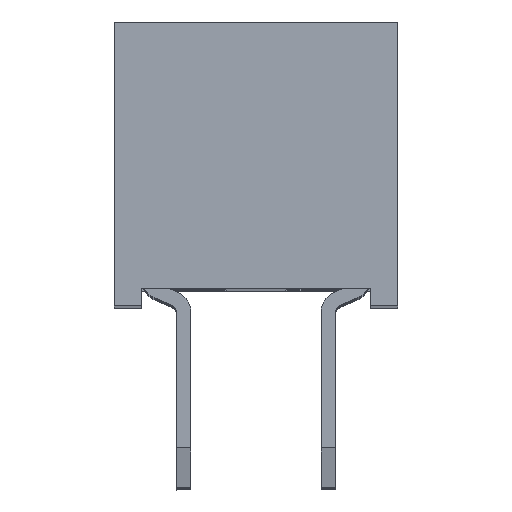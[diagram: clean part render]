
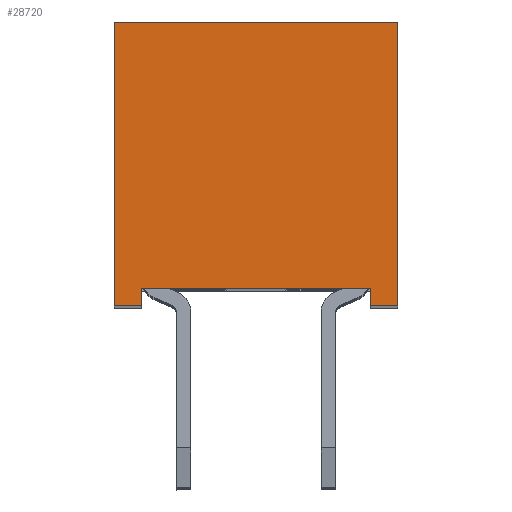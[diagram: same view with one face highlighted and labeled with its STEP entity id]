
A CAD part, top view. The second image highlights one B-rep face of the part: STEP entity #28720.
In plain terms, the highlighted planar face has unit normal (0, 0, 1).
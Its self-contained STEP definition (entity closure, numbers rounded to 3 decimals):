
#701 = PLANE ( 'NONE',  #1032 ) ;
#715 = FACE_OUTER_BOUND ( 'NONE', #5439, .T. ) ;
#724 = CARTESIAN_POINT ( 'NONE',  ( -0.473, 20.754, 50.799 ) ) ;
#725 = DIRECTION ( 'NONE',  ( 0., 0., -1. ) ) ;
#726 = DIRECTION ( 'NONE',  ( -1., 0., 0. ) ) ;
#1032 = AXIS2_PLACEMENT_3D ( 'NONE', #724, #725, #726 ) ;
#5439 = EDGE_LOOP ( 'NONE', ( #22536, #22646, #22626, #22691, #22578, #22547, #22705, #22599 ) ) ;
#7926 = CARTESIAN_POINT ( 'NONE',  ( 4.527, 20.754, 50.799 ) ) ;
#8078 = CARTESIAN_POINT ( 'NONE',  ( -0.473, 25.754, 50.799 ) ) ;
#8137 = CARTESIAN_POINT ( 'NONE',  ( 4.527, 25.754, 50.799 ) ) ;
#8440 = CARTESIAN_POINT ( 'NONE',  ( -0.473, 20.754, 50.799 ) ) ;
#8613 = CARTESIAN_POINT ( 'NONE',  ( 0.007, 20.754, 50.799 ) ) ;
#8779 = CARTESIAN_POINT ( 'NONE',  ( 4.047, 20.754, 50.799 ) ) ;
#15125 = CARTESIAN_POINT ( 'NONE',  ( 4.047, 21.054, 50.799 ) ) ;
#15863 = VERTEX_POINT ( 'NONE', #8613 ) ;
#22536 = ORIENTED_EDGE ( 'NONE', *, *, #28290, .F. ) ;
#22547 = ORIENTED_EDGE ( 'NONE', *, *, #28285, .F. ) ;
#22578 = ORIENTED_EDGE ( 'NONE', *, *, #28228, .F. ) ;
#22599 = ORIENTED_EDGE ( 'NONE', *, *, #28375, .F. ) ;
#22626 = ORIENTED_EDGE ( 'NONE', *, *, #28263, .F. ) ;
#22646 = ORIENTED_EDGE ( 'NONE', *, *, #28251, .F. ) ;
#22691 = ORIENTED_EDGE ( 'NONE', *, *, #25730, .F. ) ;
#22705 = ORIENTED_EDGE ( 'NONE', *, *, #28299, .F. ) ;
#23067 = VERTEX_POINT ( 'NONE', #8137 ) ;
#23083 = VERTEX_POINT ( 'NONE', #8078 ) ;
#23141 = VERTEX_POINT ( 'NONE', #7926 ) ;
#23276 = VERTEX_POINT ( 'NONE', #8440 ) ;
#23368 = VERTEX_POINT ( 'NONE', #8779 ) ;
#23483 = VERTEX_POINT ( 'NONE', #15125 ) ;
#24039 = VERTEX_POINT ( 'NONE', #28814 ) ;
#24735 = VECTOR ( 'NONE', #29835, 1000. ) ;
#24745 = VECTOR ( 'NONE', #29875, 1000. ) ;
#24747 = VECTOR ( 'NONE', #29901, 1000. ) ;
#24762 = VECTOR ( 'NONE', #29952, 1000. ) ;
#24765 = VECTOR ( 'NONE', #29957, 1000. ) ;
#24769 = VECTOR ( 'NONE', #29976, 1000. ) ;
#25730 = EDGE_CURVE ( 'NONE', #23368, #23483, #27939, .T. ) ;
#27933 = DIRECTION ( 'NONE',  ( 0., 1., 0. ) ) ;
#27935 = CARTESIAN_POINT ( 'NONE',  ( 4.047, 25.354, 50.799 ) ) ;
#27939 = LINE ( 'NONE', #27935, #29759 ) ;
#28228 = EDGE_CURVE ( 'NONE', #23141, #23368, #29832, .T. ) ;
#28251 = EDGE_CURVE ( 'NONE', #24039, #15863, #29872, .T. ) ;
#28263 = EDGE_CURVE ( 'NONE', #23483, #24039, #29802, .T. ) ;
#28285 = EDGE_CURVE ( 'NONE', #23067, #23141, #29908, .T. ) ;
#28290 = EDGE_CURVE ( 'NONE', #15863, #23276, #29955, .T. ) ;
#28299 = EDGE_CURVE ( 'NONE', #23083, #23067, #29973, .T. ) ;
#28375 = EDGE_CURVE ( 'NONE', #23276, #23083, #30289, .T. ) ;
#28720 = ADVANCED_FACE ( 'NONE', ( #715 ), #701, .F. ) ;
#28814 = CARTESIAN_POINT ( 'NONE',  ( 0.007, 21.054, 50.799 ) ) ;
#29759 = VECTOR ( 'NONE', #27933, 1000. ) ;
#29802 = LINE ( 'NONE', #29897, #24747 ) ;
#29832 = LINE ( 'NONE', #29834, #24735 ) ;
#29834 = CARTESIAN_POINT ( 'NONE',  ( 4.047, 20.754, 50.799 ) ) ;
#29835 = DIRECTION ( 'NONE',  ( -1., 0., 0. ) ) ;
#29872 = LINE ( 'NONE', #29874, #24745 ) ;
#29874 = CARTESIAN_POINT ( 'NONE',  ( 0.007, 21.254, 50.799 ) ) ;
#29875 = DIRECTION ( 'NONE',  ( 0., -1., 0. ) ) ;
#29897 = CARTESIAN_POINT ( 'NONE',  ( -0.473, 21.054, 50.799 ) ) ;
#29901 = DIRECTION ( 'NONE',  ( -1., 0., 0. ) ) ;
#29908 = LINE ( 'NONE', #29949, #24762 ) ;
#29949 = CARTESIAN_POINT ( 'NONE',  ( 4.527, 20.754, 50.799 ) ) ;
#29952 = DIRECTION ( 'NONE',  ( 0., -1., 0. ) ) ;
#29955 = LINE ( 'NONE', #29956, #24765 ) ;
#29956 = CARTESIAN_POINT ( 'NONE',  ( -0.473, 20.754, 50.799 ) ) ;
#29957 = DIRECTION ( 'NONE',  ( -1., 0., 0. ) ) ;
#29973 = LINE ( 'NONE', #29974, #24769 ) ;
#29974 = CARTESIAN_POINT ( 'NONE',  ( 4.527, 25.754, 50.799 ) ) ;
#29976 = DIRECTION ( 'NONE',  ( 1., 0., 0. ) ) ;
#30289 = LINE ( 'NONE', #30290, #30516 ) ;
#30290 = CARTESIAN_POINT ( 'NONE',  ( -0.473, 20.754, 50.799 ) ) ;
#30292 = DIRECTION ( 'NONE',  ( 0., 1., 0. ) ) ;
#30516 = VECTOR ( 'NONE', #30292, 1000. ) ;
